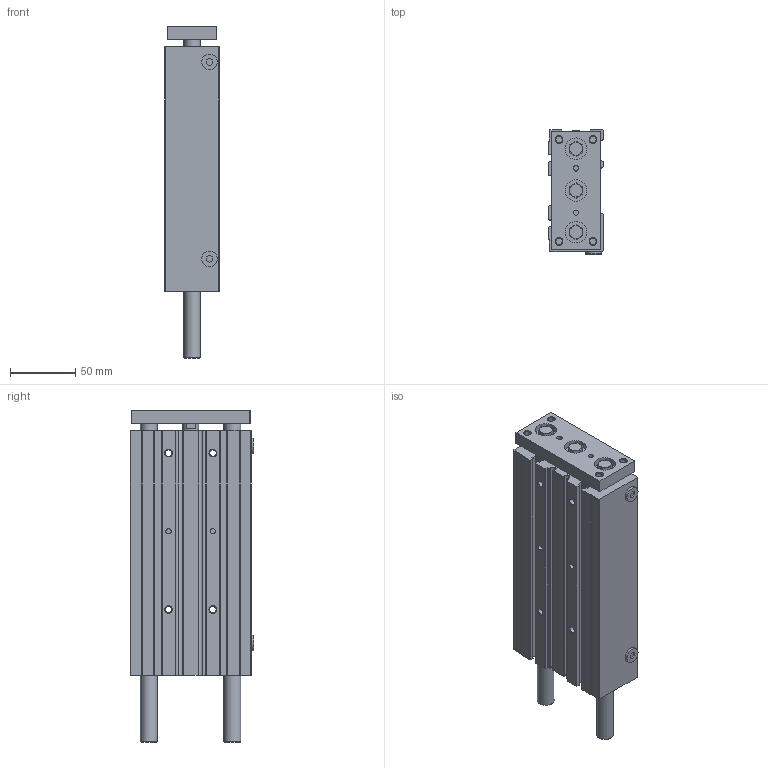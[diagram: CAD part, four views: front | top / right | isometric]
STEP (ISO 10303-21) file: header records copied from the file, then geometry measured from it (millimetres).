
FILE_DESCRIPTION( ( 'STEP AP214' ), '1' );
FILE_NAME( 'C:/Users/emc02044/Desktop/SGL SGM/SGL25X150-S.stp', '2026-07-24T02:30:53', ( 'License CC BY-ND 4.0' ), ( 'CADENAS' ), ' ', 'PARTsolutions', ' ' );
FILE_SCHEMA( ( 'AUTOMOTIVE_DESIGN { 1 0 10303 214 1 1 1 1 }' ) );
Length unit declared in the file: millimetre
Products named in the file (4): SGL25X150X0-S(); _SGL25x150-M(SG:Shaft cylinderL25X150X0-S:with magnet()dummy-0) 0; _SGL25x150-M(-0)-body; _SGL25x150-M(-0)-rod
Assembly tree (3 placements, depth 2):
  SGL25X150X0-S()
    _SGL25x150-M(SG:Shaft cylinderL25X150X0-S:with magnet()dummy-0) 0
    _SGL25x150-M(-0)-body
    _SGL25x150-M(-0)-rod
Bounding box: 42 x 95 x 254.5 mm (x, y, z)
Volume: 586697.8 mm3; surface area: 153945.4 mm2
Topology: 2 solids, 4 shells, 343 faces, 839 edges, 540 vertices
Faces by surface type: plane 174, cylinder 111, cone 58
Full cylindrical faces by diameter (mm): 4 x6, 4.917 x12, 5.2 x4, 8.566 x4, 9.5 x4, 12 x4, 13 x4, 16.5 x3, 19 x2, 25 x3
Entity records: 12634 total; most frequent: CARTESIAN_POINT 1964, DIRECTION 1650, ORIENTED_EDGE 1520, EDGE_CURVE 760, AXIS2_PLACEMENT_3D 633, VERTEX_POINT 528, EDGE_LOOP 466, FACE_OUTER_BOUND 389
